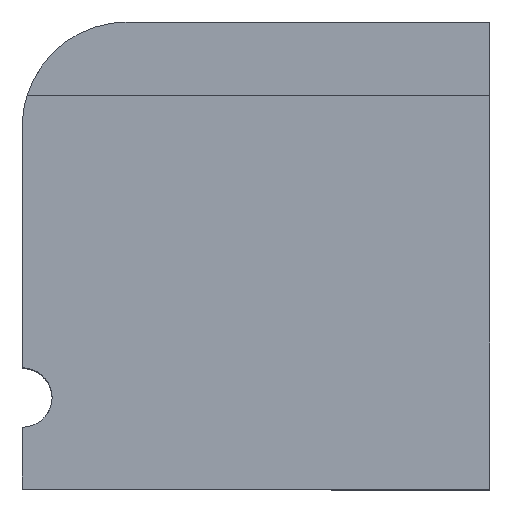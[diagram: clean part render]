
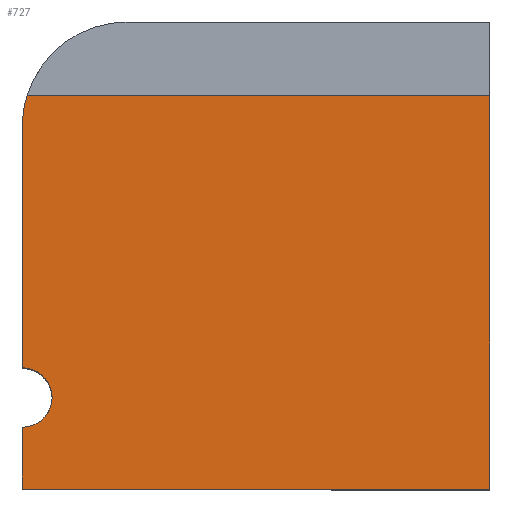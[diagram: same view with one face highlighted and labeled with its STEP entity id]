
A CAD part, top view. The second image highlights one B-rep face of the part: STEP entity #727.
In plain terms, the highlighted planar face has unit normal (0, 0, 1).
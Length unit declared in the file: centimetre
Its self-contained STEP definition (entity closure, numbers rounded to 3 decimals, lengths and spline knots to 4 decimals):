
#4 = CARTESIAN_POINT ( 'NONE',  ( 1000., 0., 1000. ) ) ;
#17 = CARTESIAN_POINT ( 'NONE',  ( 0., 196.1797, 1000. ) ) ;
#35 = DIRECTION ( 'NONE',  ( 1., 0., 0. ) ) ;
#52 = CARTESIAN_POINT ( 'NONE',  ( 1000., 842.149, 1000. ) ) ;
#87 = AXIS2_PLACEMENT_3D ( 'NONE', #718, #1267, #35 ) ;
#99 = DIRECTION ( 'NONE',  ( 0., 0., 1. ) ) ;
#102 = ORIENTED_EDGE ( 'NONE', *, *, #759, .T. ) ;
#137 = AXIS2_PLACEMENT_3D ( 'NONE', #1305, #589, #1592 ) ;
#176 = CARTESIAN_POINT ( 'NONE',  ( 63.6312, 196.1797, 1000. ) ) ;
#200 = CARTESIAN_POINT ( 'NONE',  ( 0., 0., 1000. ) ) ;
#206 = CARTESIAN_POINT ( 'NONE',  ( 9.9946, 842.149, 1000. ) ) ;
#213 = EDGE_CURVE ( 'NONE', #1226, #1596, #335, .T. ) ;
#220 = CARTESIAN_POINT ( 'NONE',  ( 1000., 1000., 1000. ) ) ;
#249 = VECTOR ( 'NONE', #469, 100. ) ;
#284 = CARTESIAN_POINT ( 'NONE',  ( 0., 259.811, 1000. ) ) ;
#313 = CARTESIAN_POINT ( 'NONE',  ( 0., 1000., 1000. ) ) ;
#335 = LINE ( 'NONE', #1411, #1544 ) ;
#353 = EDGE_CURVE ( 'NONE', #1226, #1593, #801, .T. ) ;
#469 = DIRECTION ( 'NONE',  ( 0., -1., 0. ) ) ;
#484 = VECTOR ( 'NONE', #642, 100. ) ;
#488 = VERTEX_POINT ( 'NONE', #910 ) ;
#507 = ORIENTED_EDGE ( 'NONE', *, *, #1634, .T. ) ;
#550 = ORIENTED_EDGE ( 'NONE', *, *, #1459, .T. ) ;
#567 = CIRCLE ( 'NONE', #137, 63.6312 ) ;
#589 = DIRECTION ( 'NONE',  ( 0., 0., 1. ) ) ;
#591 = DIRECTION ( 'NONE',  ( 1., 0., 0. ) ) ;
#610 = AXIS2_PLACEMENT_3D ( 'NONE', #17, #1693, #591 ) ;
#642 = DIRECTION ( 'NONE',  ( 0., 1., 0. ) ) ;
#669 = VECTOR ( 'NONE', #1312, 100. ) ;
#718 = CARTESIAN_POINT ( 'NONE',  ( 0., 0., 1000. ) ) ;
#727 = ADVANCED_FACE ( 'NONE', ( #990 ), #1130, .T. ) ;
#741 = ORIENTED_EDGE ( 'NONE', *, *, #1553, .F. ) ;
#759 = EDGE_CURVE ( 'NONE', #1009, #770, #977, .T. ) ;
#770 = VERTEX_POINT ( 'NONE', #1636 ) ;
#774 = ORIENTED_EDGE ( 'NONE', *, *, #1424, .T. ) ;
#801 = CIRCLE ( 'NONE', #610, 63.6312 ) ;
#808 = LINE ( 'NONE', #961, #1497 ) ;
#815 = DIRECTION ( 'NONE',  ( 1., 0., 0. ) ) ;
#900 = LINE ( 'NONE', #220, #484 ) ;
#910 = CARTESIAN_POINT ( 'NONE',  ( 1000., 842.149, 1000. ) ) ;
#961 = CARTESIAN_POINT ( 'NONE',  ( 0., 0., 1000. ) ) ;
#977 = CIRCLE ( 'NONE', #1309, 224.0177 ) ;
#990 = FACE_OUTER_BOUND ( 'NONE', #1523, .T. ) ;
#1009 = VERTEX_POINT ( 'NONE', #206 ) ;
#1026 = ORIENTED_EDGE ( 'NONE', *, *, #1055, .T. ) ;
#1055 = EDGE_CURVE ( 'NONE', #488, #1009, #1301, .T. ) ;
#1130 = PLANE ( 'NONE',  #87 ) ;
#1156 = ORIENTED_EDGE ( 'NONE', *, *, #353, .F. ) ;
#1217 = VERTEX_POINT ( 'NONE', #284 ) ;
#1226 = VERTEX_POINT ( 'NONE', #1429 ) ;
#1229 = DIRECTION ( 'NONE',  ( 1., 0., 0. ) ) ;
#1254 = VERTEX_POINT ( 'NONE', #4 ) ;
#1267 = DIRECTION ( 'NONE',  ( 0., 0., 1. ) ) ;
#1301 = LINE ( 'NONE', #52, #669 ) ;
#1305 = CARTESIAN_POINT ( 'NONE',  ( 0., 196.1797, 1000. ) ) ;
#1309 = AXIS2_PLACEMENT_3D ( 'NONE', #1341, #99, #815 ) ;
#1312 = DIRECTION ( 'NONE',  ( -1., 0., 0. ) ) ;
#1341 = CARTESIAN_POINT ( 'NONE',  ( 224.0177, 775.9823, 1000. ) ) ;
#1411 = CARTESIAN_POINT ( 'NONE',  ( 0., 1000., 1000. ) ) ;
#1424 = EDGE_CURVE ( 'NONE', #1596, #1254, #808, .T. ) ;
#1429 = CARTESIAN_POINT ( 'NONE',  ( 0., 132.5485, 1000. ) ) ;
#1459 = EDGE_CURVE ( 'NONE', #770, #1217, #1729, .T. ) ;
#1484 = ORIENTED_EDGE ( 'NONE', *, *, #213, .T. ) ;
#1497 = VECTOR ( 'NONE', #1229, 100. ) ;
#1523 = EDGE_LOOP ( 'NONE', ( #1026, #102, #550, #741, #1156, #1484, #774, #507 ) ) ;
#1544 = VECTOR ( 'NONE', #1715, 100. ) ;
#1553 = EDGE_CURVE ( 'NONE', #1593, #1217, #567, .T. ) ;
#1592 = DIRECTION ( 'NONE',  ( 1., 0., 0. ) ) ;
#1593 = VERTEX_POINT ( 'NONE', #176 ) ;
#1596 = VERTEX_POINT ( 'NONE', #200 ) ;
#1634 = EDGE_CURVE ( 'NONE', #1254, #488, #900, .T. ) ;
#1636 = CARTESIAN_POINT ( 'NONE',  ( 0., 775.9823, 1000. ) ) ;
#1693 = DIRECTION ( 'NONE',  ( 0., 0., 1. ) ) ;
#1715 = DIRECTION ( 'NONE',  ( 0., -1., 0. ) ) ;
#1729 = LINE ( 'NONE', #313, #249 ) ;
